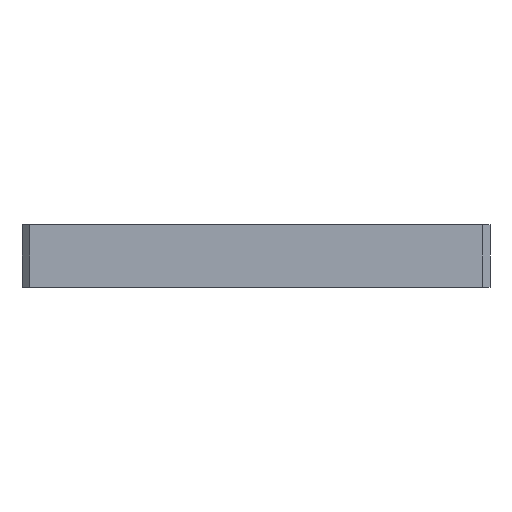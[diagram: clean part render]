
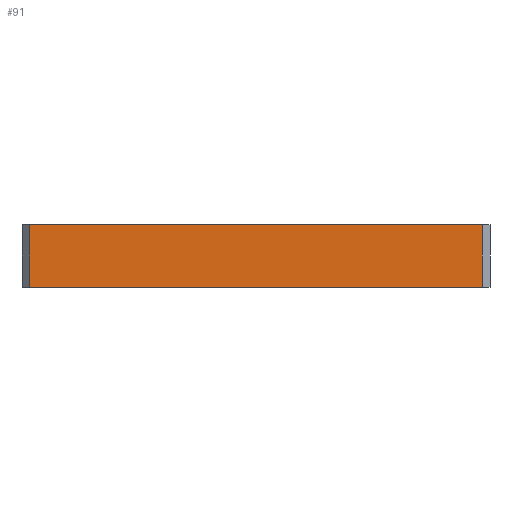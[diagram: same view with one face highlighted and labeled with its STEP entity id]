
A CAD part, front view. The second image highlights one B-rep face of the part: STEP entity #91.
In plain terms, the highlighted planar face has unit normal (0, -1, 0).
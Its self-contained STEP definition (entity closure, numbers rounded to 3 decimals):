
#91 = ADVANCED_FACE( '', ( #175 ), #176, .T. );
#175 = FACE_OUTER_BOUND( '', #284, .T. );
#176 = PLANE( '', #285 );
#284 = EDGE_LOOP( '', ( #451, #452, #453, #454 ) );
#285 = AXIS2_PLACEMENT_3D( '', #455, #456, #457 );
#451 = ORIENTED_EDGE( '', *, *, #538, .T. );
#452 = ORIENTED_EDGE( '', *, *, #584, .T. );
#453 = ORIENTED_EDGE( '', *, *, #565, .T. );
#454 = ORIENTED_EDGE( '', *, *, #586, .T. );
#455 = CARTESIAN_POINT( '', ( 0., -30., -4. ) );
#456 = DIRECTION( '', ( 0., -1., 0. ) );
#457 = DIRECTION( '', ( 0., 0., -1. ) );
#538 = EDGE_CURVE( '', #601, #599, #602, .T. );
#565 = EDGE_CURVE( '', #653, #651, #654, .T. );
#584 = EDGE_CURVE( '', #599, #653, #688, .T. );
#586 = EDGE_CURVE( '', #651, #601, #690, .T. );
#599 = VERTEX_POINT( '', #710 );
#601 = VERTEX_POINT( '', #713 );
#602 = LINE( '', #714, #715 );
#651 = VERTEX_POINT( '', #774 );
#653 = VERTEX_POINT( '', #777 );
#654 = LINE( '', #778, #779 );
#688 = LINE( '', #816, #817 );
#690 = LINE( '', #820, #821 );
#710 = CARTESIAN_POINT( '', ( -29., -30., 4. ) );
#713 = CARTESIAN_POINT( '', ( 29., -30., 4. ) );
#714 = CARTESIAN_POINT( '', ( 0., -30., 4. ) );
#715 = VECTOR( '', #836, 1000. );
#774 = CARTESIAN_POINT( '', ( 29., -30., -4. ) );
#777 = CARTESIAN_POINT( '', ( -29., -30., -4. ) );
#778 = CARTESIAN_POINT( '', ( 0., -30., -4. ) );
#779 = VECTOR( '', #893, 1000. );
#816 = CARTESIAN_POINT( '', ( -29., -30., -4. ) );
#817 = VECTOR( '', #942, 1000. );
#820 = CARTESIAN_POINT( '', ( 29., -30., -4. ) );
#821 = VECTOR( '', #944, 1000. );
#836 = DIRECTION( '', ( -1., 0., 0. ) );
#893 = DIRECTION( '', ( 1., 0., 0. ) );
#942 = DIRECTION( '', ( 0., 0., -1. ) );
#944 = DIRECTION( '', ( 0., 0., 1. ) );
